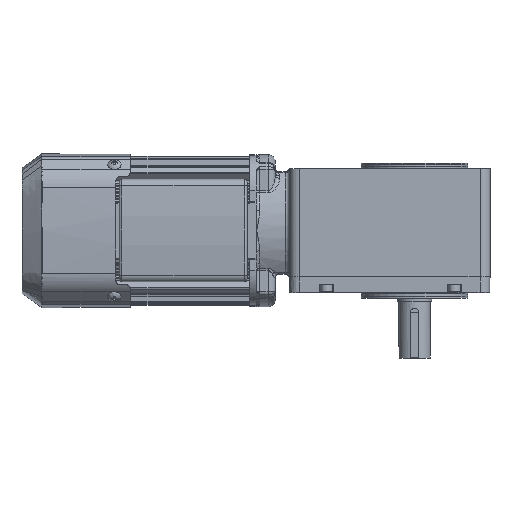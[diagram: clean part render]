
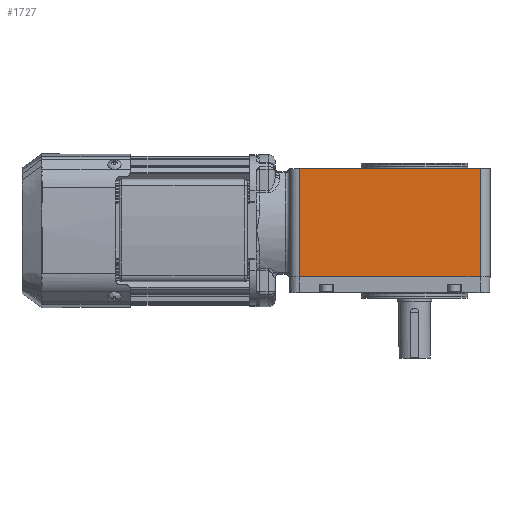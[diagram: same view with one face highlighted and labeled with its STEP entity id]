
A CAD part, top view. The second image highlights one B-rep face of the part: STEP entity #1727.
In plain terms, the highlighted planar face has unit normal (0, 0, 1).
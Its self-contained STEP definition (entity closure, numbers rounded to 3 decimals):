
#1727 = ADVANCED_FACE( '', ( #4737 ), #4738, .T. );
#4737 = FACE_OUTER_BOUND( '', #10026, .T. );
#4738 = PLANE( '', #10027 );
#10026 = EDGE_LOOP( '', ( #23915, #23916, #23917, #23918 ) );
#10027 = AXIS2_PLACEMENT_3D( '', #23919, #23920, #23921 );
#23915 = ORIENTED_EDGE( '', *, *, #36025, .F. );
#23916 = ORIENTED_EDGE( '', *, *, #36026, .T. );
#23917 = ORIENTED_EDGE( '', *, *, #36027, .T. );
#23918 = ORIENTED_EDGE( '', *, *, #36028, .T. );
#23919 = CARTESIAN_POINT( '', ( 104.152, 17.187, 53. ) );
#23920 = DIRECTION( '', ( 0., 0., 1. ) );
#23921 = DIRECTION( '', ( 1., 0., 0. ) );
#36025 = EDGE_CURVE( '', #41402, #41403, #41404, .T. );
#36026 = EDGE_CURVE( '', #41402, #41405, #41406, .T. );
#36027 = EDGE_CURVE( '', #41405, #41407, #41408, .T. );
#36028 = EDGE_CURVE( '', #41407, #41403, #41409, .T. );
#41402 = VERTEX_POINT( '', #49766 );
#41403 = VERTEX_POINT( '', #49767 );
#41404 = LINE( '', #49768, #49769 );
#41405 = VERTEX_POINT( '', #49770 );
#41406 = LINE( '', #49771, #49772 );
#41407 = VERTEX_POINT( '', #49773 );
#41408 = LINE( '', #49774, #49775 );
#41409 = LINE( '', #49776, #49777 );
#49766 = CARTESIAN_POINT( '', ( 104.152, 16.687, 53. ) );
#49767 = CARTESIAN_POINT( '', ( 104.152, -59.313, 53. ) );
#49768 = CARTESIAN_POINT( '', ( 104.152, 17.187, 53. ) );
#49769 = VECTOR( '', #62237, 1000. );
#49770 = CARTESIAN_POINT( '', ( -22.848, 16.687, 53. ) );
#49771 = CARTESIAN_POINT( '', ( 104.152, 16.687, 53. ) );
#49772 = VECTOR( '', #62238, 1000. );
#49773 = CARTESIAN_POINT( '', ( -22.848, -59.313, 53. ) );
#49774 = CARTESIAN_POINT( '', ( -22.848, 17.187, 53. ) );
#49775 = VECTOR( '', #62239, 1000. );
#49776 = CARTESIAN_POINT( '', ( 104.152, -59.313, 53. ) );
#49777 = VECTOR( '', #62240, 1000. );
#62237 = DIRECTION( '', ( 0., -1., 0. ) );
#62238 = DIRECTION( '', ( -1., 0., 0. ) );
#62239 = DIRECTION( '', ( 0., -1., 0. ) );
#62240 = DIRECTION( '', ( 1., 0., 0. ) );
